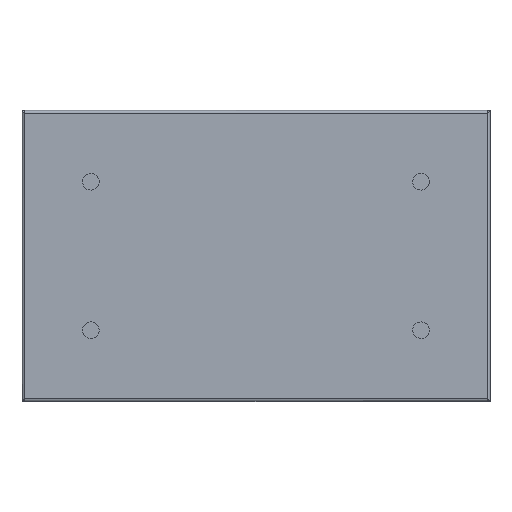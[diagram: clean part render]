
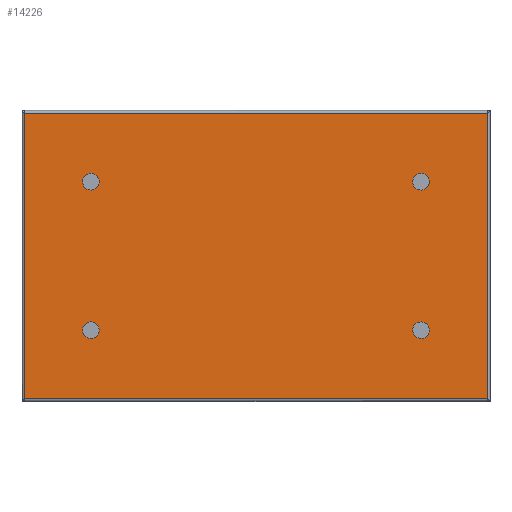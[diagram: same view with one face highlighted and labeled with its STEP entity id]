
A CAD part, top view. The second image highlights one B-rep face of the part: STEP entity #14226.
In plain terms, the highlighted planar face has unit normal (0, 0, 1).
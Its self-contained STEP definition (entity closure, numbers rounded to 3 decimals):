
#8646=CARTESIAN_POINT(' ',(391.7,242.7,0.));
#8647=VERTEX_POINT(' ',#8646);
#9256=CARTESIAN_POINT(' ',(391.7,2.3,0.));
#9257=VERTEX_POINT(' ',#9256);
#10231=CARTESIAN_POINT(' ',(391.7,242.7,0.));
#10236=DIRECTION(' ',(0.,-1.,0.));
#10241=VECTOR(' ',#10236,1.);
#10246=LINE('',#10231,#10241);
#10251=EDGE_CURVE(' ',#8647,#9257,#10246,.T.);
#12261=CARTESIAN_POINT(' ',(2.3,2.3,0.));
#12262=VERTEX_POINT(' ',#12261);
#12856=CARTESIAN_POINT(' ',(2.3,242.7,0.));
#12857=VERTEX_POINT(' ',#12856);
#14096=DIRECTION(' ',(-0.,-0.,1.));
#14101=CARTESIAN_POINT(' ',(391.7,2.3,0.));
#14106=DIRECTION(' ',(0.,1.,0.));
#14111=AXIS2_PLACEMENT_3D(' ',#14101,#14096,#14106);
#14116=PLANE('NONE',#14111);
#14121=CARTESIAN_POINT(' ',(2.3,2.3,0.));
#14126=DIRECTION(' ',(1.,0.,0.));
#14131=VECTOR(' ',#14126,1.);
#14136=LINE('',#14121,#14131);
#14141=EDGE_CURVE(' ',#12262,#9257,#14136,.T.);
#14146=ORIENTED_EDGE(' ',*,*,#14141,.T.);
#14151=ORIENTED_EDGE(' ',*,*,#10251,.F.);
#14156=CARTESIAN_POINT(' ',(391.7,242.7,0.));
#14161=DIRECTION(' ',(-1.,0.,0.));
#14166=VECTOR(' ',#14161,1.);
#14171=LINE('',#14156,#14166);
#14176=EDGE_CURVE(' ',#8647,#12857,#14171,.T.);
#14181=ORIENTED_EDGE(' ',*,*,#14176,.T.);
#14186=CARTESIAN_POINT(' ',(2.3,242.7,0.));
#14191=DIRECTION(' ',(0.,-1.,0.));
#14196=VECTOR(' ',#14191,1.);
#14201=LINE('',#14186,#14196);
#14206=EDGE_CURVE(' ',#12857,#12262,#14201,.T.);
#14211=ORIENTED_EDGE(' ',*,*,#14206,.T.);
#14216=EDGE_LOOP(' ',(#14146,#14151,#14181,#14211));
#14221=FACE_OUTER_BOUND(' ',#14216,.T.);
#14226=ADVANCED_FACE('NONE',(#14221),#14116,.T.);
